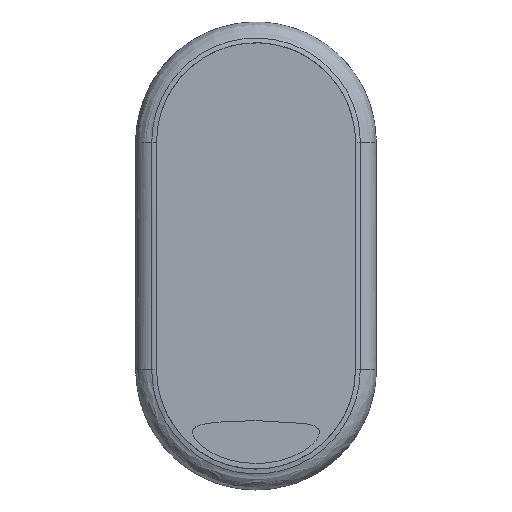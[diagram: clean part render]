
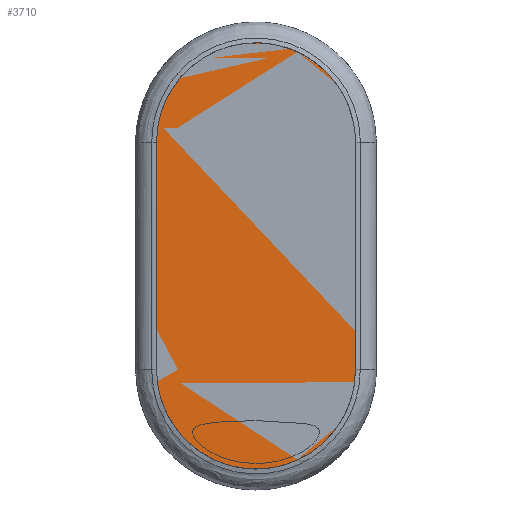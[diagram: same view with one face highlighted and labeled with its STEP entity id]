
A CAD part, top view. The second image highlights one B-rep face of the part: STEP entity #3710.
In plain terms, the highlighted planar face has unit normal (0, 0, 1).
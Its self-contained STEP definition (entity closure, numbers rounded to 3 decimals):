
#3634=CARTESIAN_POINT('',(-24.809,69.,7.1));
#3635=CARTESIAN_POINT('',(-24.809,70.302,7.1));
#3636=CARTESIAN_POINT('',(-24.607,72.874,7.1));
#3637=CARTESIAN_POINT('',(-23.694,76.695,7.1));
#3638=CARTESIAN_POINT('',(-22.2,80.301,7.1));
#3639=CARTESIAN_POINT('',(-20.157,83.638,7.1));
#3640=CARTESIAN_POINT('',(-17.618,86.612,7.1));
#3641=CARTESIAN_POINT('',(-14.647,89.15,7.1));
#3642=CARTESIAN_POINT('',(-11.311,91.195,7.1));
#3643=CARTESIAN_POINT('',(-7.698,92.692,7.1));
#3644=CARTESIAN_POINT('',(-3.899,93.604,7.1));
#3645=CARTESIAN_POINT('',(0.003,93.911,7.1));
#3646=CARTESIAN_POINT('',(3.895,93.605,7.1));
#3647=CARTESIAN_POINT('',(7.7,92.691,7.1));
#3648=CARTESIAN_POINT('',(11.314,91.193,7.1));
#3649=CARTESIAN_POINT('',(14.646,89.151,7.1));
#3650=CARTESIAN_POINT('',(17.619,86.61,7.1));
#3651=CARTESIAN_POINT('',(20.155,83.64,7.1));
#3652=CARTESIAN_POINT('',(22.2,80.301,7.1));
#3653=CARTESIAN_POINT('',(23.694,76.695,7.1));
#3654=CARTESIAN_POINT('',(24.607,72.875,7.1));
#3655=CARTESIAN_POINT('',(24.809,70.302,7.1));
#3656=CARTESIAN_POINT('',(24.809,69.,7.1));
#3658=DIRECTION('',(0.,-1.,0.));
#3659=VECTOR('',#3658,56.7);
#3660=CARTESIAN_POINT('',(24.809,69.,7.1));
#3661=LINE('',#3660,#3659);
#3662=CARTESIAN_POINT('',(24.809,12.3,7.1));
#3663=CARTESIAN_POINT('',(24.809,11.125,7.1));
#3664=CARTESIAN_POINT('',(24.651,8.733,7.1));
#3665=CARTESIAN_POINT('',(23.764,4.808,7.1));
#3666=CARTESIAN_POINT('',(22.289,1.174,7.1));
#3667=CARTESIAN_POINT('',(20.249,-2.214,7.1));
#3668=CARTESIAN_POINT('',(17.706,-5.225,7.1));
#3669=CARTESIAN_POINT('',(14.717,-7.801,7.1));
#3670=CARTESIAN_POINT('',(11.364,-9.87,7.1));
#3671=CARTESIAN_POINT('',(7.716,-11.387,7.1));
#3672=CARTESIAN_POINT('',(3.888,-12.307,7.1));
#3673=CARTESIAN_POINT('',(-0.02,-12.613,7.1));
#3674=CARTESIAN_POINT('',(-3.958,-12.297,7.1));
#3675=CARTESIAN_POINT('',(-7.789,-11.364,7.1));
#3676=CARTESIAN_POINT('',(-11.425,-9.839,7.1));
#3677=CARTESIAN_POINT('',(-14.779,-7.756,7.1));
#3678=CARTESIAN_POINT('',(-17.757,-5.174,7.1));
#3679=CARTESIAN_POINT('',(-20.292,-2.153,7.1));
#3680=CARTESIAN_POINT('',(-22.314,1.226,7.1));
#3681=CARTESIAN_POINT('',(-23.782,4.87,7.1));
#3682=CARTESIAN_POINT('',(-24.65,8.741,7.1));
#3683=CARTESIAN_POINT('',(-24.809,11.127,7.1));
#3684=CARTESIAN_POINT('',(-24.809,12.3,7.1));
#3686=DIRECTION('',(0.,1.,0.));
#3687=VECTOR('',#3686,56.7);
#3688=CARTESIAN_POINT('',(-24.809,12.3,7.1));
#3689=LINE('',#3688,#3687);
#3690=VERTEX_POINT('',#3634);
#3691=VERTEX_POINT('',#3656);
#3692=CARTESIAN_POINT('',(24.809,12.3,7.1));
#3693=VERTEX_POINT('',#3692);
#3694=VERTEX_POINT('',#3684);
#3695=CARTESIAN_POINT('',(-1.904,40.65,7.1));
#3696=DIRECTION('',(0.,0.,1.));
#3697=DIRECTION('',(1.,0.,0.));
#3698=AXIS2_PLACEMENT_3D('',#3695,#3696,#3697);
#3699=PLANE('',#3698);
#3701=ORIENTED_EDGE('',*,*,#3700,.T.);
#3703=ORIENTED_EDGE('',*,*,#3702,.T.);
#3705=ORIENTED_EDGE('',*,*,#3704,.T.);
#3707=ORIENTED_EDGE('',*,*,#3706,.T.);
#3708=EDGE_LOOP('',(#3701,#3703,#3705,#3707));
#3709=FACE_OUTER_BOUND('',#3708,.F.);
#3710=ADVANCED_FACE('',(#3709),#3699,.T.);
#3657=B_SPLINE_CURVE_WITH_KNOTS('',3,(#3634,#3635,#3636,#3637,#3638,#3639,#3640,
#3641,#3642,#3643,#3644,#3645,#3646,#3647,#3648,#3649,#3650,#3651,#3652,#3653,
#3654,#3655,#3656),.UNSPECIFIED.,.F.,.F.,(4,1,1,1,1,1,1,1,1,1,1,1,1,1,1,1,1,1,1,
1,4),(0.,0.05,0.1,0.15,0.2,0.25,0.3,0.35,0.4,0.45,0.5,
0.55,0.6,0.65,0.7,0.75,0.8,0.85,0.9,0.95,1.),.UNSPECIFIED.);
#3685=B_SPLINE_CURVE_WITH_KNOTS('',3,(#3662,#3663,#3664,#3665,#3666,#3667,#3668,
#3669,#3670,#3671,#3672,#3673,#3674,#3675,#3676,#3677,#3678,#3679,#3680,#3681,
#3682,#3683,#3684),.UNSPECIFIED.,.F.,.F.,(4,1,1,1,1,1,1,1,1,1,1,1,1,1,1,1,1,1,1,
1,4),(0.,0.05,0.1,0.15,0.2,0.25,0.3,0.35,0.4,0.45,0.5,
0.55,0.6,0.65,0.7,0.75,0.8,0.85,0.9,0.95,1.),.UNSPECIFIED.);
#3700=EDGE_CURVE('',#3690,#3691,#3657,.T.);
#3702=EDGE_CURVE('',#3691,#3693,#3661,.T.);
#3704=EDGE_CURVE('',#3693,#3694,#3685,.T.);
#3706=EDGE_CURVE('',#3694,#3690,#3689,.T.);
